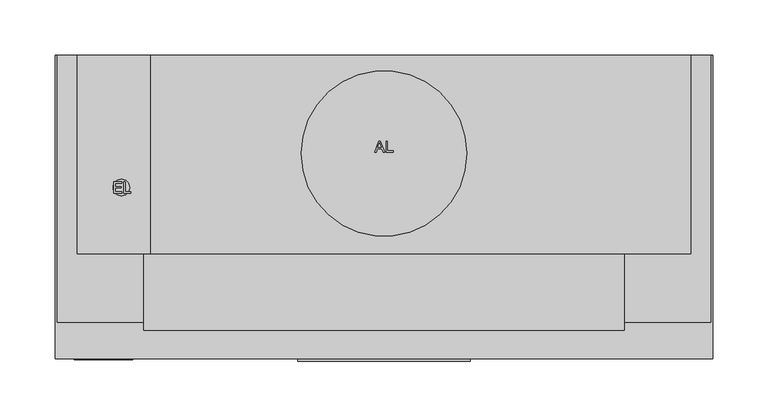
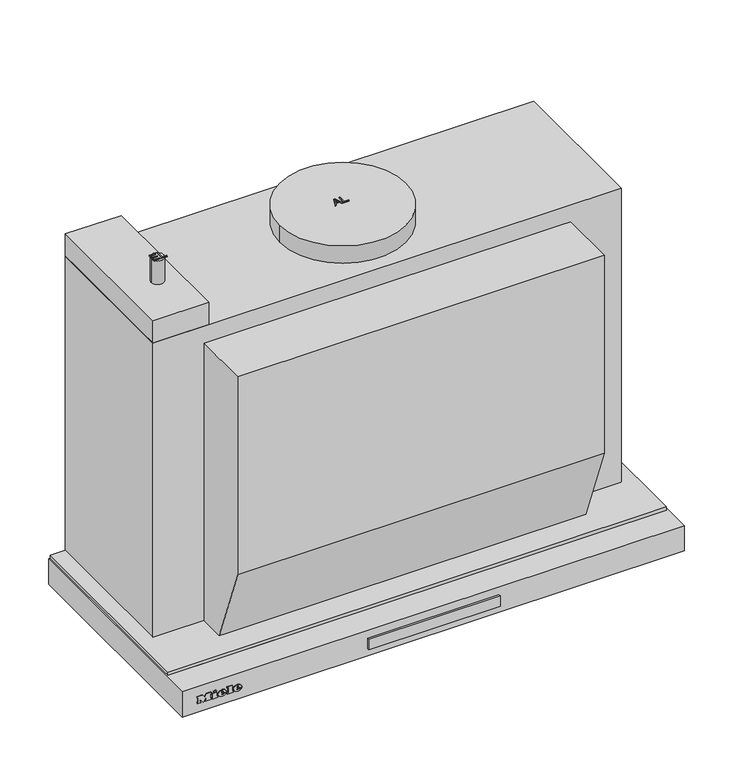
"""IFC4 building model written with IfcOpenShell, lengths in millimetres: proxy geometry, 11878410_PAC_DAS4620_EDST : 28S4620S_PAC_11878410_DAS4620_EDST."""

from ifc_helpers import new_model, si_unit, point, frame, frame_2d, origin, origin_with_axes, place, context, project, spatial, polyline, circle_curve, ellipse_curve, trimmed, segment, composite_curve, outline, extrude, faceted_brep, source, transform, mapped, element, save
from ifc_brep_helpers import plane_surface, cylinder_surface, revolved_surface, extruded_surface, advanced_brep


def specialty_equipment_41d201da(model_context):
    return source(origin(), model_context, "Body", "SolidModel", [
        extrude(outline(polyline([(78.0, -275.0), (78.0, -277.3978707), (-78.0, -277.3978707), (-78.0, -275.0), (78.0, -275.0)])), frame((0.0, 0.0, -23.0389651), z_axis=(0.0, 0.0, 1.0), x_axis=(1.0, 0.0, 0.0)), (0.0, 0.0, 1.0), 13.3389155),
        advanced_brep(
        [(-233.4590019, -276.0, -18.7681017), (-233.4590019, -276.0, -17.8894017), (-227.6387019, -276.0, -17.8894017), (-237.7655019, -276.0, -17.8894017), (-235.3730019, -276.0, -20.8300017), (-227.7866019, -276.0, -18.7681017), (-230.4140019, -276.0, -18.7681017), (-232.4846019, -276.0, -19.7425017), (-233.4590019, -276.0, -16.7758017), (-233.4590019, -276.0, -15.8275017), (-231.9713019, -276.0, -15.8275017), (-231.9713019, -276.0, -16.7758017), (-233.4590019, -275.0, -18.7681017), (-232.4846019, -275.0, -19.7425017), (-230.4140019, -275.0, -18.7681017), (-227.7866019, -275.0, -18.7681017), (-235.3730019, -275.0, -20.8300017), (-237.7655019, -275.0, -17.8894017), (-227.6387019, -275.0, -17.8894017), (-233.4590019, -275.0, -17.8894017), (-233.4590019, -275.0, -16.7758017), (-231.9713019, -275.0, -16.7758017), (-231.9713019, -275.0, -15.8275017), (-233.4590019, -275.0, -15.8275017)],
        [
            (0, 1),
            (1, 2),
            (2, 3, ellipse_curve(frame((-232.7021019, -276.0, -17.8894017), z_axis=(0.0, -1.0, 0.0), x_axis=(-1.0, 0.0, 0.0)), 5.0634, 4.1847)),
            (3, 4, circle_curve(frame((-234.3985544, -276.0, -17.5936017), z_axis=(0.0, -1.0, 0.0), x_axis=(0.0, 0.0, -1.0)), 3.3799161)),
            (4, 5, circle_curve(frame((-232.8034638, -276.0, -15.2968017), z_axis=(0.0, -1.0, 0.0), x_axis=(0.0, 0.0, -1.0)), 6.1007236)),
            (5, 6),
            (6, 7, circle_curve(frame((-232.0593254, -276.0, -17.9590017), z_axis=(0.0, 1.0, 0.0), x_axis=(0.0, 0.0, -1.0)), 1.8335027)),
            (7, 0, circle_curve(frame((-232.4846019, -276.0, -18.7681017), z_axis=(0.0, 1.0, 0.0), x_axis=(0.0, 0.0, -1.0)), 0.9744)),
            (8, 9),
            (9, 10, circle_curve(frame((-232.7151519, -276.0, -15.8275017), z_axis=(0.0, 1.0, 0.0), x_axis=(0.0, 0.0, -1.0)), 0.74385)),
            (10, 11),
            (11, 8),
            (12, 13, circle_curve(frame((-232.4846019, -275.0, -18.7681017), z_axis=(0.0, -1.0, 0.0), x_axis=(0.0, 0.0, -1.0)), 0.9744)),
            (13, 14, circle_curve(frame((-232.0593254, -275.0, -17.9590017), z_axis=(0.0, -1.0, 0.0), x_axis=(0.0, 0.0, -1.0)), 1.8335027)),
            (14, 15),
            (15, 16, circle_curve(frame((-232.8034638, -275.0, -15.2968017), z_axis=(0.0, 1.0, 0.0), x_axis=(0.0, 0.0, -1.0)), 6.1007236)),
            (16, 17, circle_curve(frame((-234.3985544, -275.0, -17.5936017), z_axis=(0.0, 1.0, 0.0), x_axis=(0.0, 0.0, -1.0)), 3.3799161)),
            (17, 18, ellipse_curve(frame((-232.7021019, -275.0, -17.8894017), z_axis=(0.0, 1.0, 0.0), x_axis=(-1.0, 0.0, 0.0)), 5.0634, 4.1847)),
            (18, 19),
            (19, 12),
            (20, 21),
            (21, 22),
            (22, 23, circle_curve(frame((-232.7151519, -275.0, -15.8275017), z_axis=(0.0, -1.0, 0.0), x_axis=(0.0, 0.0, -1.0)), 0.74385)),
            (23, 20),
            (0, 12),
            (19, 1),
            (18, 2),
            (5, 15),
            (14, 6),
            (17, 3),
            (13, 7),
            (16, 4),
            (8, 20),
            (23, 9),
            (22, 10),
            (21, 11),
        ],
        [
            plane_surface(frame((-233.4590019, -276.0, -17.8894017), z_axis=(0.0, -1.0, 0.0), x_axis=(0.0, 0.0, 1.0))),
            plane_surface(frame((-233.4590019, -275.0, -17.8894017), z_axis=(0.0, 1.0, 0.0), x_axis=(0.0, 0.0, -1.0))),
            plane_surface(frame((-233.4590019, -276.0, -18.7681017), z_axis=(1.0, 0.0, 0.0), x_axis=(0.0, 1.0, 0.0))),
            plane_surface(frame((-233.4590019, -276.0, -17.8894017), z_axis=(0.0, 0.0, -1.0), x_axis=(0.0, 1.0, 0.0))),
            plane_surface(frame((-227.7866019, -276.0, -18.7681017), z_axis=(0.0, 0.0, 1.0), x_axis=(0.0, 1.0, 0.0))),
            extruded_surface(trimmed(ellipse_curve(frame((-232.7021019, -274.0, -17.8894017), z_axis=(0.0, -1.0, 0.0), x_axis=(-1.0, 0.0, 0.0)), 5.0634, 4.1847), [point((-227.6387019, -274.0, -17.8894017))], [point((-237.7655019, -274.0, -17.8894017))], True, "CARTESIAN"), (0.0, -1.0, 0.0), 1.0),
            revolved_surface(polyline([(-232.0593254, -275.0, -19.792504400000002), (-232.0593254, -276.0, -19.792504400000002)]), (-232.0593254, -275.0, -17.9590017), (0.0, 1.0, 0.0)),
            revolved_surface(polyline([(-232.4846019, -275.0, -19.7425017), (-232.4846019, -276.0, -19.7425017)]), (-232.4846019, -275.0, -18.7681017), (0.0, 1.0, 0.0)),
            cylinder_surface(frame((-234.3985544, -275.0, -17.5936017), z_axis=(0.0, -1.0, 0.0), x_axis=(0.0, 0.0, -1.0)), 3.3799161),
            cylinder_surface(frame((-232.8034638, -275.0, -15.2968017), z_axis=(0.0, -1.0, 0.0), x_axis=(0.0, 0.0, -1.0)), 6.1007236),
            plane_surface(frame((-233.4590019, -276.0, -16.7758017), z_axis=(1.0, 0.0, 0.0), x_axis=(0.0, 1.0, 0.0))),
            revolved_surface(polyline([(-232.7151519, -275.0, -16.571351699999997), (-232.7151519, -276.0, -16.571351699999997)]), (-232.7151519, -275.0, -15.8275017), (0.0, 1.0, 0.0)),
            plane_surface(frame((-231.9713019, -276.0, -15.8275017), z_axis=(-1.0, 0.0, 0.0), x_axis=(0.0, 1.0, 0.0))),
            plane_surface(frame((-231.9713019, -276.0, -16.7758017), z_axis=(0.0, 0.0, 1.0), x_axis=(0.0, 1.0, 0.0))),
        ],
        [
            (0, [[1, 2, 3, 4, 5, 6, 7, 8], [9, 10, 11, 12]]),
            (1, [[13, 14, 15, 16, 17, 18, 19, 20], [21, 22, 23, 24]]),
            (2, [[-1, 25, -20, 26]]),
            (3, [[-2, -26, -19, 27]]),
            (4, [[-6, 28, -15, 29]]),
            (5, [[-3, -27, -18, 30]]),
            (6, [[-7, -29, -14, 31]]),
            (7, [[-8, -31, -13, -25]]),
            (8, [[-4, -30, -17, 32]]),
            (9, [[-5, -32, -16, -28]]),
            (10, [[-9, 33, -24, 34]]),
            (11, [[-10, -34, -23, 35]]),
            (12, [[-11, -35, -22, 36]]),
            (13, [[-12, -36, -21, -33]]),
        ],
    ),
        advanced_brep(
        [(-251.6159019, -276.0, -18.7681017), (-251.6159019, -276.0, -17.8894017), (-245.7956019, -276.0, -17.8894017), (-255.9224019, -276.0, -17.8894017), (-253.5299019, -276.0, -20.8300017), (-245.9435019, -276.0, -18.7681017), (-248.5709019, -276.0, -18.7681017), (-250.6415019, -276.0, -19.7425017), (-251.6159019, -276.0, -16.7758017), (-251.6159019, -276.0, -15.8275017), (-250.1282019, -276.0, -15.8275017), (-250.1282019, -276.0, -16.7758017), (-251.6159019, -275.0, -18.7681017), (-250.6415019, -275.0, -19.7425017), (-248.5709019, -275.0, -18.7681017), (-245.9435019, -275.0, -18.7681017), (-253.5299019, -275.0, -20.8300017), (-255.9224019, -275.0, -17.8894017), (-245.7956019, -275.0, -17.8894017), (-251.6159019, -275.0, -17.8894017), (-251.6159019, -275.0, -16.7758017), (-250.1282019, -275.0, -16.7758017), (-250.1282019, -275.0, -15.8275017), (-251.6159019, -275.0, -15.8275017)],
        [
            (0, 1),
            (1, 2),
            (2, 3, ellipse_curve(frame((-250.8590019, -276.0, -17.8894017), z_axis=(0.0, -1.0, 0.0), x_axis=(-1.0, 0.0, 0.0)), 5.0634, 4.1847)),
            (3, 4, circle_curve(frame((-252.5554544, -276.0, -17.5936017), z_axis=(0.0, -1.0, 0.0), x_axis=(0.0, 0.0, -1.0)), 3.3799161)),
            (4, 5, circle_curve(frame((-250.9603638, -276.0, -15.2968017), z_axis=(0.0, -1.0, 0.0), x_axis=(0.0, 0.0, -1.0)), 6.1007236)),
            (5, 6),
            (6, 7, circle_curve(frame((-250.2162254, -276.0, -17.9590017), z_axis=(0.0, 1.0, 0.0), x_axis=(0.0, 0.0, -1.0)), 1.8335027)),
            (7, 0, circle_curve(frame((-250.6415019, -276.0, -18.7681017), z_axis=(0.0, 1.0, 0.0), x_axis=(0.0, 0.0, -1.0)), 0.9744)),
            (8, 9),
            (9, 10, circle_curve(frame((-250.8720519, -276.0, -15.8275017), z_axis=(0.0, 1.0, 0.0), x_axis=(0.0, 0.0, -1.0)), 0.74385)),
            (10, 11),
            (11, 8),
            (12, 13, circle_curve(frame((-250.6415019, -275.0, -18.7681017), z_axis=(0.0, -1.0, 0.0), x_axis=(0.0, 0.0, -1.0)), 0.9744)),
            (13, 14, circle_curve(frame((-250.2162254, -275.0, -17.9590017), z_axis=(0.0, -1.0, 0.0), x_axis=(0.0, 0.0, -1.0)), 1.8335027)),
            (14, 15),
            (15, 16, circle_curve(frame((-250.9603638, -275.0, -15.2968017), z_axis=(0.0, 1.0, 0.0), x_axis=(0.0, 0.0, -1.0)), 6.1007236)),
            (16, 17, circle_curve(frame((-252.5554544, -275.0, -17.5936017), z_axis=(0.0, 1.0, 0.0), x_axis=(0.0, 0.0, -1.0)), 3.3799161)),
            (17, 18, ellipse_curve(frame((-250.8590019, -275.0, -17.8894017), z_axis=(0.0, 1.0, 0.0), x_axis=(-1.0, 0.0, 0.0)), 5.0634, 4.1847)),
            (18, 19),
            (19, 12),
            (20, 21),
            (21, 22),
            (22, 23, circle_curve(frame((-250.8720519, -275.0, -15.8275017), z_axis=(0.0, -1.0, 0.0), x_axis=(0.0, 0.0, -1.0)), 0.74385)),
            (23, 20),
            (0, 12),
            (19, 1),
            (18, 2),
            (5, 15),
            (14, 6),
            (17, 3),
            (13, 7),
            (16, 4),
            (8, 20),
            (23, 9),
            (22, 10),
            (21, 11),
        ],
        [
            plane_surface(frame((-251.6159019, -276.0, -17.8894017), z_axis=(0.0, -1.0, 0.0), x_axis=(0.0, 0.0, 1.0))),
            plane_surface(frame((-251.6159019, -275.0, -17.8894017), z_axis=(0.0, 1.0, 0.0), x_axis=(0.0, 0.0, -1.0))),
            plane_surface(frame((-251.6159019, -276.0, -18.7681017), z_axis=(1.0, 0.0, 0.0), x_axis=(0.0, 1.0, 0.0))),
            plane_surface(frame((-251.6159019, -276.0, -17.8894017), z_axis=(0.0, 0.0, -1.0), x_axis=(0.0, 1.0, 0.0))),
            plane_surface(frame((-245.9435019, -276.0, -18.7681017), z_axis=(0.0, 0.0, 1.0), x_axis=(0.0, 1.0, 0.0))),
            extruded_surface(trimmed(ellipse_curve(frame((-250.8590019, -274.0, -17.8894017), z_axis=(0.0, -1.0, 0.0), x_axis=(-1.0, 0.0, 0.0)), 5.0634, 4.1847), [point((-245.7956019, -274.0, -17.8894017))], [point((-255.9224019, -274.0, -17.8894017))], True, "CARTESIAN"), (0.0, -1.0, 0.0), 1.0),
            revolved_surface(polyline([(-250.2162254, -275.0, -19.792504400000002), (-250.2162254, -276.0, -19.792504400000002)]), (-250.2162254, -275.0, -17.9590017), (0.0, 1.0, 0.0)),
            revolved_surface(polyline([(-250.6415019, -275.0, -19.7425017), (-250.6415019, -276.0, -19.7425017)]), (-250.6415019, -275.0, -18.7681017), (0.0, 1.0, 0.0)),
            cylinder_surface(frame((-252.5554544, -275.0, -17.5936017), z_axis=(0.0, -1.0, 0.0), x_axis=(0.0, 0.0, -1.0)), 3.3799161),
            cylinder_surface(frame((-250.9603638, -275.0, -15.2968017), z_axis=(0.0, -1.0, 0.0), x_axis=(0.0, 0.0, -1.0)), 6.1007236),
            plane_surface(frame((-251.6159019, -276.0, -16.7758017), z_axis=(1.0, 0.0, 0.0), x_axis=(0.0, 1.0, 0.0))),
            revolved_surface(polyline([(-250.8720519, -275.0, -16.571351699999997), (-250.8720519, -276.0, -16.571351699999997)]), (-250.8720519, -275.0, -15.8275017), (0.0, 1.0, 0.0)),
            plane_surface(frame((-250.1282019, -276.0, -15.8275017), z_axis=(-1.0, 0.0, 0.0), x_axis=(0.0, 1.0, 0.0))),
            plane_surface(frame((-250.1282019, -276.0, -16.7758017), z_axis=(0.0, 0.0, 1.0), x_axis=(0.0, 1.0, 0.0))),
        ],
        [
            (0, [[1, 2, 3, 4, 5, 6, 7, 8], [9, 10, 11, 12]]),
            (1, [[13, 14, 15, 16, 17, 18, 19, 20], [21, 22, 23, 24]]),
            (2, [[-1, 25, -20, 26]]),
            (3, [[-2, -26, -19, 27]]),
            (4, [[-6, 28, -15, 29]]),
            (5, [[-3, -27, -18, 30]]),
            (6, [[-7, -29, -14, 31]]),
            (7, [[-8, -31, -13, -25]]),
            (8, [[-4, -30, -17, 32]]),
            (9, [[-5, -32, -16, -28]]),
            (10, [[-9, 33, -24, 34]]),
            (11, [[-10, -34, -23, 35]]),
            (12, [[-11, -35, -22, 36]]),
            (13, [[-12, -36, -21, -33]]),
        ],
    ),
        extrude(outline(polyline([(-12.6433017, -261.1250019), (-14.0527017, -260.4638019), (-12.6781017, -257.5145019), (-11.2687017, -258.1670019), (-12.6433017, -261.1250019)])), frame((0.0, -276.0, 0.0), z_axis=(0.0, 1.0, 0.0), x_axis=(0.0, 0.0, 1.0)), (0.0, 0.0, 1.0), 1.0),
        extrude(outline(polyline([(-14.2441017, -263.2739019), (-15.8014017, -263.2739019), (-15.8014017, -262.2386019), (-19.3684017, -262.2386019), (-19.3684017, -263.2739019), (-20.8300017, -263.2739019), (-20.8300017, -256.4096019), (-19.3684017, -256.4096019), (-19.3684017, -257.4188019), (-14.2441017, -257.4188019), (-14.2441017, -263.2739019)])), frame((0.0, -276.0, 0.0), z_axis=(0.0, 1.0, 0.0), x_axis=(0.0, 0.0, 1.0)), (0.0, 0.0, 1.0), 1.0),
        extrude(outline(polyline([(-13.5481017, -245.3084019), (-13.5481017, -244.2644019), (-19.3684017, -244.2644019), (-19.3684017, -245.3084019), (-20.8300017, -245.3084019), (-20.8300017, -238.2527019), (-19.3684017, -238.2527019), (-19.3684017, -239.3228019), (-12.1300017, -239.3228019), (-12.1300017, -245.3084019), (-13.5481017, -245.3084019)])), frame((0.0, -276.0, 0.0), z_axis=(0.0, 1.0, 0.0), x_axis=(0.0, 0.0, 1.0)), (0.0, 0.0, 1.0), 1.0),
        extrude(outline(polyline([(-13.5481017, -280.6130019), (-13.5481017, -279.5603019), (-19.3684017, -279.5603019), (-19.3684017, -280.6130019), (-20.8300017, -280.6130019), (-20.8300017, -276.7850019), (-19.3684017, -276.7850019), (-19.3684017, -277.8290019), (-15.6719769, -277.8290019), (-20.8300017, -273.9401019), (-15.5772794, -270.0338019), (-19.3684017, -270.0338019), (-19.3684017, -271.1039019), (-20.8300017, -271.1039019), (-20.8300017, -264.1613019), (-19.3684017, -264.1613019), (-19.3684017, -265.2662019), (-13.5481017, -265.2662019), (-13.5481017, -264.1613019), (-12.1300017, -264.1613019), (-12.1300017, -269.4596019), (-15.3925017, -272.0000019), (-12.1300017, -274.5491019), (-12.1300017, -280.6130019), (-13.5481017, -280.6130019)])), frame((0.0, -276.0, 0.0), z_axis=(0.0, 1.0, 0.0), x_axis=(0.0, 0.0, 1.0)), (0.0, 0.0, 1.0), 1.0),
        extrude(outline(polyline([(278.0, -180.0), (-278.0, -180.0), (-278.0, 0.0), (278.0, 0.0), (278.0, -180.0)])), frame((0.0, 0.0, 4.0), z_axis=(0.0, 0.0, 1.0), x_axis=(1.0, 0.0, 0.0)), (0.0, 0.0, 1.0), 369.0),
        extrude(outline(composite_curve([segment(trimmed(circle_curve(frame_2d((0.0, -89.0)), 75.0), [point((-75.0, -89.0))], [point((75.0, -89.0))], False, "CARTESIAN"), True, "CONTINUOUS"), segment(trimmed(circle_curve(frame_2d((0.0, -89.0)), 75.0), [point((75.0, -89.0))], [point((-75.0, -89.0))], False, "CARTESIAN"), True, "CONTINUOUS")], self_intersect=False)), frame((0.0, 0.0, 373.0), z_axis=(0.0, 0.0, 1.0), x_axis=(1.0, 0.0, 0.0)), (0.0, 0.0, 1.0), 22.0),
        extrude(outline(polyline([(-278.0, -180.0), (-278.0, 0.0), (-212.0, 0.0), (-212.0, -180.0), (-278.0, -180.0)])), frame((0.0, 0.0, 373.0), z_axis=(0.0, 0.0, 1.0), x_axis=(1.0, 0.0, 0.0)), (0.0, 0.0, 1.0), 28.0),
        extrude(outline(polyline([(-180.0, 352.0), (-180.0, 4.0), (-211.7966838, 4.0), (-249.5, 103.2192532), (-249.5, 352.0), (-180.0, 352.0)])), frame((-217.7156244, 0.0, 0.0), z_axis=(1.0, 0.0, 0.0), x_axis=(0.0, 1.0, 0.0)), (0.0, 0.0, 1.0), 435.4312488),
        extrude(outline(polyline([(-8.5446725, -87.975609), (-4.5347587, -77.929978), (-3.4654484, -77.929978), (0.5420128, -87.975609), (-0.7848149, -87.975609), (-1.9326067, -84.8363493), (-6.0725055, -84.8363493), (-7.2202973, -87.975609), (-8.5446725, -87.975609)]), holes=[polyline([(-5.6114267, -83.5806455), (-2.391233, -83.5806455), (-3.2986752, -81.110931), (-4.0025561, -79.1856819), (-4.6279555, -80.8951069), (-5.6114267, -83.5806455)])]), frame((0.0, 0.0, 395.0), z_axis=(0.0, 0.0, 1.0), x_axis=(1.0, 0.0, 0.0)), (0.0, 0.0, 1.0), 1.0),
        extrude(outline(polyline([(1.8835558, -87.975609), (1.8835558, -77.929978), (3.1392597, -77.929978), (3.1392597, -86.7199052), (8.1620752, -86.7199052), (8.1620752, -87.975609), (1.8835558, -87.975609)])), frame((0.0, 0.0, 395.0), z_axis=(0.0, 0.0, 1.0), x_axis=(1.0, 0.0, 0.0)), (0.0, 0.0, 1.0), 1.0),
        extrude(outline(polyline([(296.0, 0.0), (296.0, -242.0), (-296.0, -242.0), (-296.0, 0.0), (296.0, 0.0)])), origin_with_axes(), (0.0, 0.0, 1.0), 4.0),
        extrude(outline(polyline([(120.0, -19.25), (120.0, -31.75), (-120.0, -31.75), (-120.0, -19.25), (120.0, -19.25)])), frame((0.0, 0.0, -23.0), z_axis=(0.0, 0.0, 1.0), x_axis=(1.0, 0.0, 0.0)), (0.0, 0.0, 1.0), 1.785426),
        extrude(outline(polyline([(181.0813184, -268.0), (181.0813184, -246.0), (249.0, -246.0), (249.0, -268.0), (181.0813184, -268.0)])), frame((0.0, 0.0, -33.3019181), z_axis=(0.0, 0.0, 1.0), x_axis=(1.0, 0.0, 0.0)), (0.0, 0.0, 1.0), 1.3019181),
        extrude(outline(polyline([(-249.0, -268.0), (-249.0, -246.0), (-181.0, -246.0), (-181.0, -268.0), (-249.0, -268.0)])), frame((0.0, 0.0, -33.3019181), z_axis=(0.0, 0.0, 1.0), x_axis=(1.0, 0.0, 0.0)), (0.0, 0.0, 1.0), 1.3019181),
        extrude(outline(composite_curve([segment(trimmed(circle_curve(frame_2d((-238.0, -120.0)), 7.5), [point((-230.5, -120.0))], [point((-245.5, -120.0))], False, "CARTESIAN"), True, "CONTINUOUS"), segment(trimmed(circle_curve(frame_2d((-238.0, -120.0)), 7.5), [point((-245.5, -120.0))], [point((-230.5, -120.0))], False, "CARTESIAN"), True, "CONTINUOUS")], self_intersect=False)), frame((0.0, 0.0, 401.0), z_axis=(0.0, 0.0, 1.0), x_axis=(1.0, 0.0, 0.0)), (0.0, 0.0, 1.0), 30.0),
        extrude(outline(polyline([(-235.640443, -124.9184735), (-235.640443, -114.8728425), (-234.3847391, -114.8728425), (-234.3847391, -123.6627696), (-229.3619236, -123.6627696), (-229.3619236, -124.9184735), (-235.640443, -124.9184735)])), frame((0.0, 0.0, 431.0), z_axis=(0.0, 0.0, 1.0), x_axis=(1.0, 0.0, 0.0)), (0.0, 0.0, 1.0), 1.0),
        extrude(outline(polyline([(-244.9012591, -124.9184735), (-244.9012591, -114.8728425), (-237.6809618, -114.8728425), (-237.6809618, -116.1285464), (-243.6455552, -116.1285464), (-243.6455552, -119.1108431), (-237.9948878, -119.1108431), (-237.9948878, -120.366547), (-243.6455552, -120.366547), (-243.6455552, -123.6627696), (-237.5239988, -123.6627696), (-237.5239988, -124.9184735), (-244.9012591, -124.9184735)])), frame((0.0, 0.0, 431.0), z_axis=(0.0, 0.0, 1.0), x_axis=(1.0, 0.0, 0.0)), (0.0, 0.0, 1.0), 1.0),
        extrude(outline(polyline([(-298.0, 0.0), (-263.0, 0.0), (-263.0, -242.0), (263.0, -242.0), (263.0, 0.0), (298.0, 0.0), (298.0, -275.0), (-298.0, -275.0), (-298.0, 0.0)])), frame((0.0, 0.0, -32.0), z_axis=(0.0, 0.0, 1.0), x_axis=(1.0, 0.0, 0.0)), (0.0, 0.0, 1.0), 32.0),
        faceted_brep([(-126.0, -39.0, -24.0), (-126.0, -39.0, 0.0), (126.0, -39.0, 0.0), (126.0, -39.0, -24.0), (-126.0, -12.0, -24.0), (-126.0, -12.0, 0.0), (126.0, -12.0, -24.0), (126.0, -12.0, 0.0), (-263.0, -242.0, 0.0), (-263.0, 0.0, 0.0), (-263.0, 0.0, -24.0), (-263.0, -52.0, -24.0), (-263.0, -52.0, -25.0), (-263.0, -242.0, -25.0), (263.0, -52.0, -25.0), (263.0, -242.0, -25.0), (263.0, -52.0, -24.0), (263.0, 0.0, -24.0), (263.0, 0.0, 0.0), (263.0, -242.0, 0.0)], [[[0, 1, 2, 3]], [[4, 5, 1, 0]], [[6, 7, 5, 4]], [[8, 9, 10, 11, 12, 13]], [[13, 12, 14, 15]], [[16, 11, 10, 17], [6, 4, 0, 3]], [[11, 16, 14, 12]], [[18, 9, 8, 19], [5, 7, 2, 1]], [[9, 18, 17, 10]], [[19, 8, 13, 15]], [[18, 19, 15, 14, 16, 17]], [[7, 6, 3, 2]]]),
        extrude(outline(polyline([(126.0, -12.0), (126.0, -39.0), (-126.0, -39.0), (-126.0, -12.0), (126.0, -12.0)]), holes=[polyline([(120.0, -19.25), (-120.0, -19.25), (-120.0, -31.75), (120.0, -31.75), (120.0, -19.25)])]), frame((0.0, 0.0, -21.214574), z_axis=(0.0, 0.0, 1.0), x_axis=(1.0, 0.0, 0.0)), (0.0, 0.0, 1.0), 21.214574),
    ])


if __name__ == "__main__":
    model = new_model("IFC4")
    model_context = context("Model", 3, world=origin())
    ifc_project = project(units=[si_unit("LENGTHUNIT", "METRE", prefix="MILLI")], contexts=[model_context])
    site = spatial("IfcSite", under=ifc_project)
    building = spatial("IfcBuilding", under=site)
    placement = place(None, origin())
    specialty_equipment_shape = specialty_equipment_41d201da(model_context)
    element("IfcBuildingElementProxy", 1, Name="11878410_PAC_DAS4620_EDST : 28S4620S_PAC_11878410_DAS4620_EDST", ObjectType="11878410_PAC_DAS4620_EDST : 28S4620S_PAC_11878410_DAS4620_EDST", at=placement, inside=building, context=model_context, shape_type="MappedRepresentation", body=[
        mapped(specialty_equipment_shape, transform((0.0, 0.0, 0.0), x_axis=(1.0, 0.0, 0.0), y_axis=(0.0, 1.0, 0.0), z_axis=(0.0, 0.0, 1.0))),
    ])
    save(model, "model.ifc")
